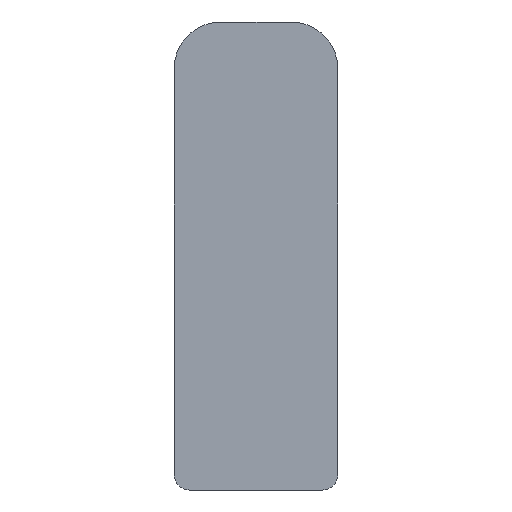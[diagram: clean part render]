
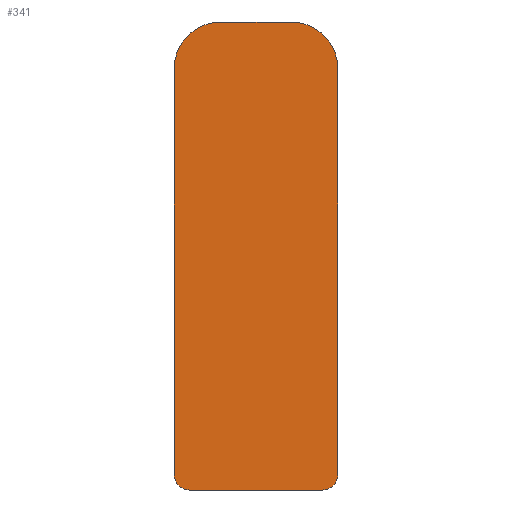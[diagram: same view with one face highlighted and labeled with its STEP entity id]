
A CAD part, left-side view. The second image highlights one B-rep face of the part: STEP entity #341.
In plain terms, the highlighted planar face has unit normal (-1, 0, 0).
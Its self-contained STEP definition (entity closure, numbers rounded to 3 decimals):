
#11 = VECTOR ( 'NONE', #284, 1000. ) ;
#12 = CIRCLE ( 'NONE', #110, 3. ) ;
#13 = LINE ( 'NONE', #242, #11 ) ;
#16 = VECTOR ( 'NONE', #325, 1000. ) ;
#17 = LINE ( 'NONE', #315, #16 ) ;
#19 = CIRCLE ( 'NONE', #113, 1. ) ;
#24 = VECTOR ( 'NONE', #253, 1000. ) ;
#25 = LINE ( 'NONE', #302, #24 ) ;
#29 = CIRCLE ( 'NONE', #115, 1. ) ;
#35 = ORIENTED_EDGE ( 'NONE', *, *, #127, .T. ) ;
#64 = ORIENTED_EDGE ( 'NONE', *, *, #139, .T. ) ;
#65 = ORIENTED_EDGE ( 'NONE', *, *, #138, .T. ) ;
#66 = ORIENTED_EDGE ( 'NONE', *, *, #128, .T. ) ;
#67 = ORIENTED_EDGE ( 'NONE', *, *, #116, .T. ) ;
#68 = ORIENTED_EDGE ( 'NONE', *, *, #119, .T. ) ;
#69 = ORIENTED_EDGE ( 'NONE', *, *, #122, .T. ) ;
#70 = ORIENTED_EDGE ( 'NONE', *, *, #124, .T. ) ;
#82 = EDGE_LOOP ( 'NONE', ( #35, #64, #65, #66, #67, #68, #69, #70 ) ) ;
#97 = AXIS2_PLACEMENT_3D ( 'NONE', #312, #187, #248 ) ;
#108 = AXIS2_PLACEMENT_3D ( 'NONE', #264, #238, #233 ) ;
#110 = AXIS2_PLACEMENT_3D ( 'NONE', #231, #323, #263 ) ;
#113 = AXIS2_PLACEMENT_3D ( 'NONE', #198, #288, #285 ) ;
#115 = AXIS2_PLACEMENT_3D ( 'NONE', #300, #283, #230 ) ;
#116 = EDGE_CURVE ( 'NONE', #327, #293, #29, .T. ) ;
#119 = EDGE_CURVE ( 'NONE', #293, #185, #25, .T. ) ;
#122 = EDGE_CURVE ( 'NONE', #185, #328, #19, .T. ) ;
#124 = EDGE_CURVE ( 'NONE', #328, #224, #17, .T. ) ;
#127 = EDGE_CURVE ( 'NONE', #224, #225, #12, .T. ) ;
#128 = EDGE_CURVE ( 'NONE', #194, #327, #13, .T. ) ;
#138 = EDGE_CURVE ( 'NONE', #297, #194, #167, .T. ) ;
#139 = EDGE_CURVE ( 'NONE', #225, #297, #169, .T. ) ;
#150 = FACE_OUTER_BOUND ( 'NONE', #82, .T. ) ;
#167 = CIRCLE ( 'NONE', #108, 3. ) ;
#168 = VECTOR ( 'NONE', #308, 1000. ) ;
#169 = LINE ( 'NONE', #222, #168 ) ;
#185 = VERTEX_POINT ( 'NONE', #241 ) ;
#187 = DIRECTION ( 'NONE',  ( -1., 0., 0. ) ) ;
#189 = CARTESIAN_POINT ( 'NONE',  ( -103.25, -5.25, 27. ) ) ;
#194 = VERTEX_POINT ( 'NONE', #211 ) ;
#195 = CARTESIAN_POINT ( 'NONE',  ( -103.25, 4.25, 0. ) ) ;
#198 = CARTESIAN_POINT ( 'NONE',  ( -103.25, -4.25, 1. ) ) ;
#211 = CARTESIAN_POINT ( 'NONE',  ( -103.25, 5.25, 27. ) ) ;
#218 = CARTESIAN_POINT ( 'NONE',  ( -103.25, 2.25, 30. ) ) ;
#222 = CARTESIAN_POINT ( 'NONE',  ( -103.25, -2.25, 30. ) ) ;
#224 = VERTEX_POINT ( 'NONE', #189 ) ;
#225 = VERTEX_POINT ( 'NONE', #298 ) ;
#229 = PLANE ( 'NONE',  #97 ) ;
#230 = DIRECTION ( 'NONE',  ( 0., 0., -1. ) ) ;
#231 = CARTESIAN_POINT ( 'NONE',  ( -103.25, -2.25, 27. ) ) ;
#233 = DIRECTION ( 'NONE',  ( 0., 0., -1. ) ) ;
#238 = DIRECTION ( 'NONE',  ( -1., 0., 0. ) ) ;
#241 = CARTESIAN_POINT ( 'NONE',  ( -103.25, -4.25, 0. ) ) ;
#242 = CARTESIAN_POINT ( 'NONE',  ( -103.25, 5.25, 1. ) ) ;
#248 = DIRECTION ( 'NONE',  ( 0., 0., 1. ) ) ;
#253 = DIRECTION ( 'NONE',  ( 0., -1., 0. ) ) ;
#263 = DIRECTION ( 'NONE',  ( 0., 0., 1. ) ) ;
#264 = CARTESIAN_POINT ( 'NONE',  ( -103.25, 2.25, 27. ) ) ;
#279 = CARTESIAN_POINT ( 'NONE',  ( -103.25, -5.25, 1. ) ) ;
#283 = DIRECTION ( 'NONE',  ( -1., 0., 0. ) ) ;
#284 = DIRECTION ( 'NONE',  ( 0., 0., -1. ) ) ;
#285 = DIRECTION ( 'NONE',  ( 0., 0., -1. ) ) ;
#288 = DIRECTION ( 'NONE',  ( -1., 0., 0. ) ) ;
#293 = VERTEX_POINT ( 'NONE', #195 ) ;
#297 = VERTEX_POINT ( 'NONE', #218 ) ;
#298 = CARTESIAN_POINT ( 'NONE',  ( -103.25, -2.25, 30. ) ) ;
#300 = CARTESIAN_POINT ( 'NONE',  ( -103.25, 4.25, 1. ) ) ;
#302 = CARTESIAN_POINT ( 'NONE',  ( -103.25, -4.25, 0. ) ) ;
#308 = DIRECTION ( 'NONE',  ( 0., 1., 0. ) ) ;
#312 = CARTESIAN_POINT ( 'NONE',  ( -103.25, -2.25, 27. ) ) ;
#315 = CARTESIAN_POINT ( 'NONE',  ( -103.25, -5.25, 1. ) ) ;
#318 = CARTESIAN_POINT ( 'NONE',  ( -103.25, 5.25, 1. ) ) ;
#323 = DIRECTION ( 'NONE',  ( -1., 0., 0. ) ) ;
#325 = DIRECTION ( 'NONE',  ( 0., 0., 1. ) ) ;
#327 = VERTEX_POINT ( 'NONE', #318 ) ;
#328 = VERTEX_POINT ( 'NONE', #279 ) ;
#341 = ADVANCED_FACE ( 'NONE', ( #150 ), #229, .T. ) ;
